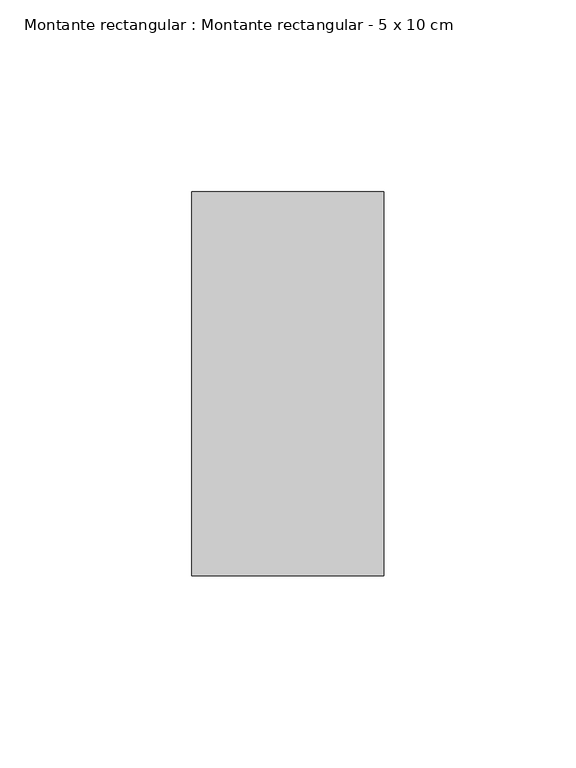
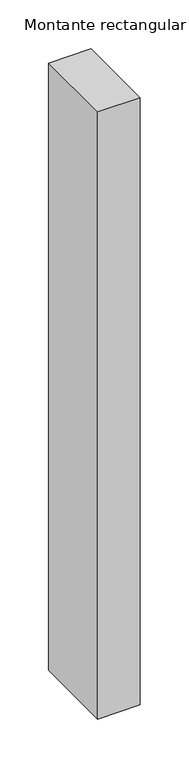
"""IFC4 building model written with IfcOpenShell, lengths in millimetres: member geometry, Montante rectangular : Montante rectangular - 5 x 10 cm."""

from ifc_helpers import new_model, si_unit, frame, origin, place, context, project, spatial, polyline, outline, extrude, source, transform, mapped, element, save


def montante_rectangular_montante_rectangular_5_x_10_cm_c72d6881(model_context):
    return source(origin(), model_context, "Body", "SweptSolid", [
        extrude(outline(polyline([(25.0, 50.0), (25.0, -50.0), (-25.0, -50.0), (-25.0, 50.0), (25.0, 50.0)])), frame((0.0, 0.0, -756.6666668), z_axis=(0.0, 0.0, 1.0), x_axis=(1.0, 0.0, 0.0)), (0.0, 0.0, 1.0), 756.6666668),
    ])


if __name__ == "__main__":
    model = new_model("IFC4")
    model_context = context("Model", 3, world=origin())
    ifc_project = project(units=[si_unit("LENGTHUNIT", "METRE", prefix="MILLI")], contexts=[model_context])
    site = spatial("IfcSite", under=ifc_project)
    building = spatial("IfcBuilding", under=site)
    placement = place(None, origin())
    montante_rectangular_montante_rectangular_5_x_10_cm_shape = montante_rectangular_montante_rectangular_5_x_10_cm_c72d6881(model_context)
    element("IfcMember", 1, ObjectType="Montante rectangular : Montante rectangular - 5 x 10 cm", at=placement, inside=building, context=model_context, shape_type="MappedRepresentation", body=[
        mapped(montante_rectangular_montante_rectangular_5_x_10_cm_shape, transform((0.0, 0.0, 0.0), x_axis=(1.0, 0.0, 0.0), y_axis=(0.0, 1.0, 0.0), z_axis=(0.0, 0.0, 1.0))),
    ])
    save(model, "model.ifc")
